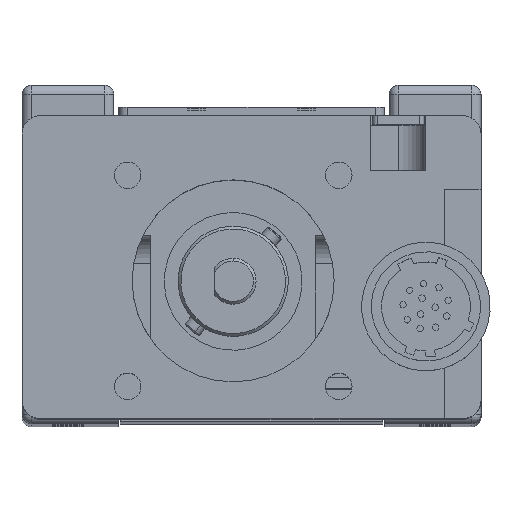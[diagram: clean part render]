
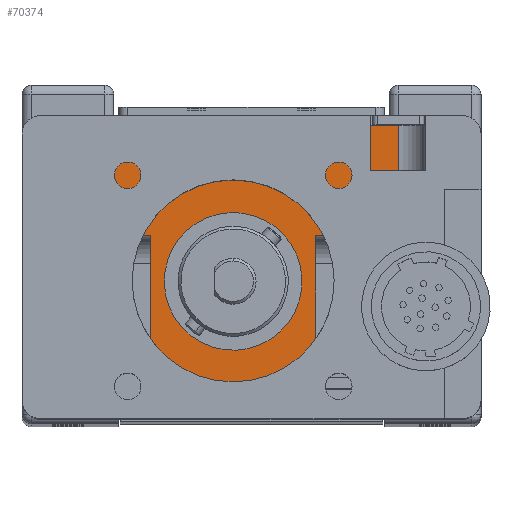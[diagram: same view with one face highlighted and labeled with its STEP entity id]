
A CAD part, top view. The second image highlights one B-rep face of the part: STEP entity #70374.
In plain terms, the highlighted planar face has unit normal (0, 0, 1).
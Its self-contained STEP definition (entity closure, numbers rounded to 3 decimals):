
#180 = LINE ( 'NONE', #69511, #54339 ) ;
#692 = DIRECTION ( 'NONE',  ( 1., 0., 0. ) ) ;
#1756 = ORIENTED_EDGE ( 'NONE', *, *, #77031, .T. ) ;
#1931 = CARTESIAN_POINT ( 'NONE',  ( -2., 20.5, 192. ) ) ;
#2821 = LINE ( 'NONE', #1931, #70689 ) ;
#2957 = VECTOR ( 'NONE', #59538, 1000. ) ;
#3036 = LINE ( 'NONE', #25078, #2957 ) ;
#3902 = DIRECTION ( 'NONE',  ( 1., 0., 0. ) ) ;
#4273 = ORIENTED_EDGE ( 'NONE', *, *, #31924, .F. ) ;
#4734 = ORIENTED_EDGE ( 'NONE', *, *, #56368, .T. ) ;
#5716 = CARTESIAN_POINT ( 'NONE',  ( 16., 20.5, 192. ) ) ;
#6546 = CARTESIAN_POINT ( 'NONE',  ( 16., 13.5, 192. ) ) ;
#6601 = DIRECTION ( 'NONE',  ( 0., -1., 0. ) ) ;
#8647 = EDGE_CURVE ( 'NONE', #65254, #63354, #64448, .T. ) ;
#9997 = CARTESIAN_POINT ( 'NONE',  ( -11., 20.5, 192. ) ) ;
#11106 = CARTESIAN_POINT ( 'NONE',  ( -11., 9.175, 192. ) ) ;
#11998 = CARTESIAN_POINT ( 'NONE',  ( -11., 20.5, 192. ) ) ;
#12119 = DIRECTION ( 'NONE',  ( 0., 0., -1. ) ) ;
#16023 = AXIS2_PLACEMENT_3D ( 'NONE', #69482, #62625, #29564 ) ;
#16381 = CARTESIAN_POINT ( 'NONE',  ( -8.928, 12.627, 192. ) ) ;
#17692 = AXIS2_PLACEMENT_3D ( 'NONE', #38820, #12119, #59500 ) ;
#18016 = EDGE_CURVE ( 'NONE', #58474, #79080, #37170, .T. ) ;
#18230 = AXIS2_PLACEMENT_3D ( 'NONE', #55498, #82581, #74749 ) ;
#21770 = VERTEX_POINT ( 'NONE', #62640 ) ;
#23269 = ORIENTED_EDGE ( 'NONE', *, *, #82454, .T. ) ;
#24171 = EDGE_CURVE ( 'NONE', #69011, #68142, #180, .T. ) ;
#24361 = CARTESIAN_POINT ( 'NONE',  ( 16., 32.5, 192. ) ) ;
#25078 = CARTESIAN_POINT ( 'NONE',  ( -16., 13.5, 192. ) ) ;
#25169 = EDGE_CURVE ( 'NONE', #68142, #58474, #69044, .T. ) ;
#26731 = DIRECTION ( 'NONE',  ( 0., 1., 0. ) ) ;
#27320 = VERTEX_POINT ( 'NONE', #42915 ) ;
#29564 = DIRECTION ( 'NONE',  ( -1., 0., 0. ) ) ;
#31924 = EDGE_CURVE ( 'NONE', #21770, #57601, #66823, .T. ) ;
#32313 = CARTESIAN_POINT ( 'NONE',  ( 4.928, 18.373, 192. ) ) ;
#36091 = CARTESIAN_POINT ( 'NONE',  ( -2., 20.5, 192. ) ) ;
#37170 = LINE ( 'NONE', #9997, #49744 ) ;
#38820 = CARTESIAN_POINT ( 'NONE',  ( -2., 15.5, 192. ) ) ;
#42915 = CARTESIAN_POINT ( 'NONE',  ( -16., 20.5, 192. ) ) ;
#43277 = EDGE_LOOP ( 'NONE', ( #4273, #71720, #23269, #70228, #64127, #66438, #1756, #47486 ) ) ;
#43531 = AXIS2_PLACEMENT_3D ( 'NONE', #6546, #89244, #54344 ) ;
#44702 = CIRCLE ( 'NONE', #18230, 7.5 ) ;
#46390 = VECTOR ( 'NONE', #692, 1000. ) ;
#47486 = ORIENTED_EDGE ( 'NONE', *, *, #90781, .T. ) ;
#49673 = CARTESIAN_POINT ( 'NONE',  ( 7., 9.175, 192. ) ) ;
#49744 = VECTOR ( 'NONE', #52721, 1000. ) ;
#50633 = DIRECTION ( 'NONE',  ( 1., 0., 0. ) ) ;
#52721 = DIRECTION ( 'NONE',  ( 0., 1., 0. ) ) ;
#53742 = VECTOR ( 'NONE', #26731, 1000. ) ;
#54339 = VECTOR ( 'NONE', #6601, 1000. ) ;
#54344 = DIRECTION ( 'NONE',  ( -1., 0., 0. ) ) ;
#54810 = PLANE ( 'NONE',  #43531 ) ;
#55498 = CARTESIAN_POINT ( 'NONE',  ( -2., 15.5, 192. ) ) ;
#56368 = EDGE_CURVE ( 'NONE', #63354, #65254, #44702, .T. ) ;
#57601 = VERTEX_POINT ( 'NONE', #24361 ) ;
#58474 = VERTEX_POINT ( 'NONE', #11106 ) ;
#59395 = CARTESIAN_POINT ( 'NONE',  ( 7., 20.5, 192. ) ) ;
#59500 = DIRECTION ( 'NONE',  ( 1., 0., 0. ) ) ;
#59538 = DIRECTION ( 'NONE',  ( 0., 1., 0. ) ) ;
#62625 = DIRECTION ( 'NONE',  ( 0., 0., -1. ) ) ;
#62640 = CARTESIAN_POINT ( 'NONE',  ( -16., 32.5, 192. ) ) ;
#63354 = VERTEX_POINT ( 'NONE', #32313 ) ;
#64127 = ORIENTED_EDGE ( 'NONE', *, *, #25169, .F. ) ;
#64448 = CIRCLE ( 'NONE', #16023, 7.5 ) ;
#64986 = LINE ( 'NONE', #36091, #46390 ) ;
#65254 = VERTEX_POINT ( 'NONE', #16381 ) ;
#66438 = ORIENTED_EDGE ( 'NONE', *, *, #24171, .F. ) ;
#66823 = LINE ( 'NONE', #88877, #68280 ) ;
#68142 = VERTEX_POINT ( 'NONE', #49673 ) ;
#68280 = VECTOR ( 'NONE', #3902, 1000. ) ;
#68494 = LINE ( 'NONE', #89641, #53742 ) ;
#69011 = VERTEX_POINT ( 'NONE', #59395 ) ;
#69012 = FACE_BOUND ( 'NONE', #89846, .T. ) ;
#69044 = CIRCLE ( 'NONE', #17692, 11. ) ;
#69482 = CARTESIAN_POINT ( 'NONE',  ( -2., 15.5, 192. ) ) ;
#69511 = CARTESIAN_POINT ( 'NONE',  ( 7., 20.5, 192. ) ) ;
#69883 = EDGE_CURVE ( 'NONE', #27320, #21770, #3036, .T. ) ;
#70228 = ORIENTED_EDGE ( 'NONE', *, *, #18016, .F. ) ;
#70374 = ADVANCED_FACE ( 'NONE', ( #69012, #74969 ), #54810, .F. ) ;
#70689 = VECTOR ( 'NONE', #50633, 1000. ) ;
#71720 = ORIENTED_EDGE ( 'NONE', *, *, #69883, .F. ) ;
#74749 = DIRECTION ( 'NONE',  ( -1., 0., 0. ) ) ;
#74969 = FACE_OUTER_BOUND ( 'NONE', #43277, .T. ) ;
#77031 = EDGE_CURVE ( 'NONE', #69011, #77716, #64986, .T. ) ;
#77716 = VERTEX_POINT ( 'NONE', #5716 ) ;
#79080 = VERTEX_POINT ( 'NONE', #11998 ) ;
#82454 = EDGE_CURVE ( 'NONE', #27320, #79080, #2821, .T. ) ;
#82581 = DIRECTION ( 'NONE',  ( 0., 0., -1. ) ) ;
#88877 = CARTESIAN_POINT ( 'NONE',  ( 16., 32.5, 192. ) ) ;
#89244 = DIRECTION ( 'NONE',  ( 0., 0., -1. ) ) ;
#89641 = CARTESIAN_POINT ( 'NONE',  ( 16., 13.5, 192. ) ) ;
#89846 = EDGE_LOOP ( 'NONE', ( #90564, #4734 ) ) ;
#90564 = ORIENTED_EDGE ( 'NONE', *, *, #8647, .T. ) ;
#90781 = EDGE_CURVE ( 'NONE', #77716, #57601, #68494, .T. ) ;
